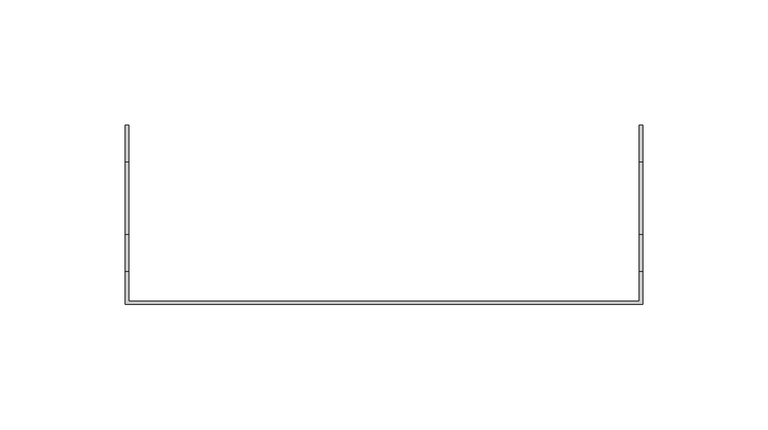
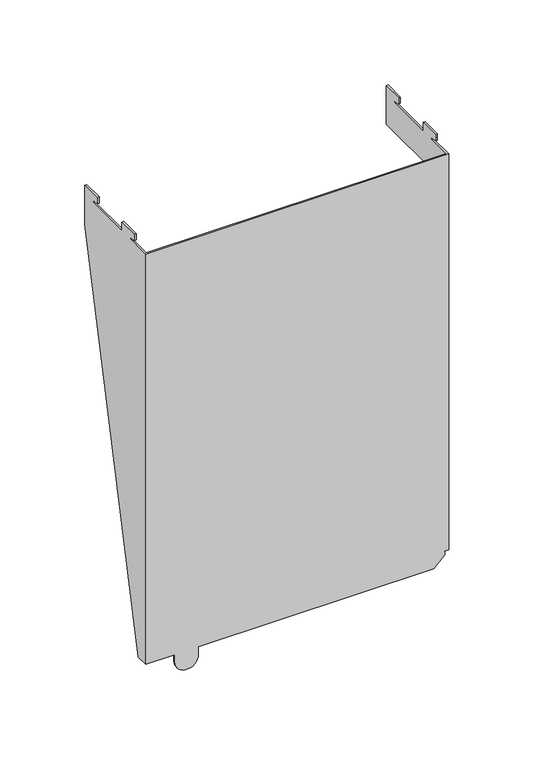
"""IFC4 building model written with IfcOpenShell, lengths in millimetres: proxy geometry, 046289_Konsole_fuer_Powerteil."""

from ifc_helpers import new_model, si_unit, frame, origin, place, context, project, spatial, circle_curve, source, transform, mapped, element, save
from ifc_brep_helpers import plane_surface, cylinder_surface, advanced_brep


def generic_models_26437f6a(model_context):
    return source(origin(), model_context, "Body", "AdvancedBrep", [
        advanced_brep(
        [(232.325, 1032.5, -308.0), (232.325, 1095.5, -35.0), (232.325, 1095.5, -7.15), (232.325, 1081.0, -7.15), (232.325, 1081.0, -11.65), (232.325, 1083.5, -12.15), (232.325, 1086.0, -12.15), (232.325, 1086.0, -13.5), (232.325, 1051.99, -13.5), (232.325, 1051.99, -7.15), (232.325, 1037.49, -7.15), (232.325, 1037.49, -11.65), (232.325, 1039.99, -12.15), (232.325, 1042.49, -12.15), (232.325, 1042.49, -13.5), (232.325, 1025.5, -13.5), (232.325, 1025.5, -308.0), (435.825, 1025.5, -13.5), (435.825, 1025.5, -298.0), (434.045, 1025.5, -298.0), (434.045, 1025.5, -298.5), (434.545, 1025.5, -298.5), (434.545, 1025.5, -300.53), (427.075, 1025.5, -308.0), (267.075, 1025.5, -308.0), (267.075, 1025.5, -313.5), (251.075, 1025.5, -313.5), (251.075, 1025.5, -308.0), (437.075, 1024.25, -13.5), (231.075, 1024.25, -13.5), (231.075, 1024.25, -308.0), (251.075, 1024.25, -308.0), (251.075, 1024.25, -313.5), (267.075, 1024.25, -313.5), (267.075, 1024.25, -308.0), (427.075, 1024.25, -308.0), (434.545, 1024.25, -300.53), (434.545, 1024.25, -298.5), (434.045, 1024.25, -298.5), (434.045, 1024.25, -298.0), (437.075, 1024.25, -298.0), (437.075, 1040.4163526, -35.0), (437.075, 1095.5, -35.0), (437.075, 1095.5, -7.15), (437.075, 1081.0, -7.15), (437.075, 1081.0, -11.65), (437.075, 1083.5, -12.15), (437.075, 1086.0, -12.15), (437.075, 1086.0, -13.5), (437.075, 1051.99, -13.5), (437.075, 1051.99, -7.15), (437.075, 1037.49, -7.15), (437.075, 1037.49, -11.65), (437.075, 1039.99, -12.15), (437.075, 1042.49, -12.15), (437.075, 1042.49, -13.5), (437.075, 1032.5, -298.0), (437.075, 1032.5, -56.75), (435.825, 1095.5, -35.0), (435.825, 1040.4163526, -35.0), (435.825, 1032.5, -56.75), (435.825, 1032.5, -298.0), (435.825, 1042.49, -13.5), (435.825, 1042.49, -12.15), (435.825, 1039.99, -12.15), (435.825, 1037.49, -11.65), (435.825, 1037.49, -7.15), (435.825, 1051.99, -7.15), (435.825, 1051.99, -13.5), (435.825, 1086.0, -13.5), (435.825, 1086.0, -12.15), (435.825, 1083.5, -12.15), (435.825, 1081.0, -11.65), (435.825, 1081.0, -7.15), (435.825, 1095.5, -7.15), (231.075, 1042.49, -13.5), (231.075, 1032.5, -308.0), (231.075, 1095.5, -35.0), (231.075, 1042.49, -12.15), (231.075, 1039.99, -12.15), (231.075, 1037.49, -11.65), (231.075, 1037.49, -7.15), (231.075, 1051.99, -7.15), (231.075, 1051.99, -13.5), (231.075, 1086.0, -13.5), (231.075, 1086.0, -12.15), (231.075, 1083.5, -12.15), (231.075, 1081.0, -11.65), (231.075, 1081.0, -7.15), (231.075, 1095.5, -7.15)],
        [
            (0, 1),
            (1, 2),
            (2, 3),
            (3, 4),
            (4, 5),
            (5, 6),
            (6, 7),
            (7, 8),
            (8, 9),
            (9, 10),
            (10, 11),
            (11, 12),
            (12, 13),
            (13, 14),
            (14, 15),
            (15, 16),
            (16, 0),
            (15, 17),
            (17, 18),
            (18, 19),
            (19, 20),
            (20, 21),
            (21, 22),
            (22, 23),
            (23, 24),
            (24, 25),
            (25, 26, circle_curve(frame((259.075, 1025.5, -313.5), z_axis=(0.0, 1.0, 0.0), x_axis=(-1.0, 0.0, 0.0)), 8.0)),
            (26, 27),
            (27, 16),
            (28, 29),
            (29, 30),
            (30, 31),
            (31, 32),
            (32, 33, circle_curve(frame((259.075, 1024.25, -313.5), z_axis=(0.0, -1.0, 0.0), x_axis=(-1.0, 0.0, 0.0)), 8.0)),
            (33, 34),
            (34, 35),
            (35, 36),
            (36, 37),
            (37, 38),
            (38, 39),
            (39, 40),
            (40, 28),
            (41, 42),
            (42, 43),
            (43, 44),
            (44, 45),
            (45, 46),
            (46, 47),
            (47, 48),
            (48, 49),
            (49, 50),
            (50, 51),
            (51, 52),
            (52, 53),
            (53, 54),
            (54, 55),
            (55, 28),
            (40, 56),
            (56, 57),
            (57, 41),
            (58, 59),
            (59, 60),
            (60, 61),
            (61, 18),
            (17, 62),
            (62, 63),
            (63, 64),
            (64, 65),
            (65, 66),
            (66, 67),
            (67, 68),
            (68, 69),
            (69, 70),
            (70, 71),
            (71, 72),
            (72, 73),
            (73, 74),
            (74, 58),
            (41, 59),
            (58, 42),
            (57, 60),
            (56, 61),
            (14, 75),
            (75, 29),
            (55, 62),
            (30, 76),
            (76, 0),
            (27, 31),
            (39, 19),
            (35, 23),
            (22, 36),
            (76, 77),
            (77, 1),
            (75, 78),
            (78, 79),
            (79, 80),
            (80, 81),
            (81, 82),
            (82, 83),
            (83, 84),
            (84, 85),
            (85, 86),
            (86, 87),
            (87, 88),
            (88, 89),
            (89, 77),
            (89, 2),
            (3, 88),
            (87, 4),
            (10, 81),
            (80, 11),
            (82, 9),
            (8, 83),
            (79, 12),
            (86, 5),
            (74, 43),
            (44, 73),
            (72, 45),
            (71, 46),
            (67, 50),
            (49, 68),
            (51, 66),
            (65, 52),
            (64, 53),
            (63, 54),
            (48, 69),
            (47, 70),
            (38, 20),
            (37, 21),
            (34, 24),
            (33, 25),
            (32, 26),
            (7, 84),
            (78, 13),
            (6, 85),
        ],
        [
            plane_surface(frame((232.325, 1082.463073, -252.759819), z_axis=(1.0, 0.0, 0.0), x_axis=(0.0, 0.0, -1.0))),
            plane_surface(frame((311.3887567, 1025.5, -192.7381268), z_axis=(0.0, 1.0, 0.0), x_axis=(-1.0, 0.0, 0.0))),
            plane_surface(frame((311.3887567, 1024.25, -192.7381268), z_axis=(0.0, -1.0, 0.0), x_axis=(-1.0, 0.0, 0.0))),
            plane_surface(frame((437.075, 1073.8599851, -31.0643711), z_axis=(1.0, 0.0, 0.0), x_axis=(0.0, 0.0, -1.0))),
            plane_surface(frame((435.825, 1073.8599851, -31.0643711), z_axis=(-1.0, 0.0, 0.0), x_axis=(0.0, 0.0, -1.0))),
            plane_surface(frame((437.075, 1059.6399553, -35.0), z_axis=(0.0, 0.0, -1.0), x_axis=(0.0, 1.0, 0.0))),
            plane_surface(frame((437.075, 1040.4163526, -35.0), z_axis=(0.0, 0.9396926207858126, -0.34202014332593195), x_axis=(0.0, 0.34202014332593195, 0.9396926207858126))),
            plane_surface(frame((437.075, 1032.5, -56.75), z_axis=(0.0, 1.0, 0.0), x_axis=(0.0, 0.0, 1.0))),
            plane_surface(frame((309.2120309, 1087.8842988, -13.5), z_axis=(0.0, 0.0, 1.0), x_axis=(-1.0, 0.0, 0.0))),
            plane_surface(frame((437.505, 1452.155, -308.0), z_axis=(0.0, 0.0, -1.0), x_axis=(0.0, -1.0, 0.0))),
            plane_surface(frame((434.045, 1102.6250024, -298.0), z_axis=(0.0, 0.0, -1.0), x_axis=(1.0, 0.0, 0.0))),
            plane_surface(frame((435.4987815, 1017.1249976, -299.5762185), z_axis=(0.7071067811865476, 0.0, -0.7071067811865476), x_axis=(-0.7071067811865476, 0.0, -0.7071067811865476))),
            plane_surface(frame((210.4749976, 1032.5, -308.0), z_axis=(0.0, 0.9743911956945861, -0.2248595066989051), x_axis=(0.0, 0.2248595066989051, 0.9743911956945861))),
            plane_surface(frame((231.075, 1082.463073, -252.759819), z_axis=(-1.0, 0.0, 0.0), x_axis=(0.0, 0.0, -1.0))),
            plane_surface(frame((232.325, 1095.5, -17.3404306), z_axis=(0.0, 1.0, 0.0), x_axis=(0.0, 0.0, -1.0))),
            plane_surface(frame((457.6750024, 1081.0, -11.65), z_axis=(0.0, -1.0, 0.0), x_axis=(0.0, 0.0, 1.0))),
            plane_surface(frame((457.6750024, 1037.49, -11.65), z_axis=(0.0, -1.0, 0.0), x_axis=(0.0, 0.0, 1.0))),
            plane_surface(frame((232.325, 1051.99, -17.1346883), z_axis=(0.0, 1.0, 0.0), x_axis=(0.0, 0.0, -1.0))),
            plane_surface(frame((457.6750024, 1039.99, -12.15), z_axis=(0.0, -0.19611613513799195, -0.9805806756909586), x_axis=(0.0, -0.9805806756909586, 0.19611613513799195))),
            plane_surface(frame((457.6750024, 1083.5, -12.15), z_axis=(0.0, -0.19611613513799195, -0.9805806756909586), x_axis=(0.0, -0.9805806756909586, 0.19611613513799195))),
            plane_surface(frame((437.075, 1095.5, -15.0), z_axis=(0.0, 1.0, 0.0), x_axis=(-1.0, 0.0, 0.0))),
            plane_surface(frame((437.075, 1051.99, -17.1346883), z_axis=(0.0, 1.0, 0.0), x_axis=(0.0, 0.0, -1.0))),
            plane_surface(frame((437.075, 1037.49, -12.15), z_axis=(0.0, 0.0, -1.0), x_axis=(0.0, -1.0, 0.0))),
            plane_surface(frame((437.075, 1047.49, -7.15), z_axis=(0.0, 0.0, 1.0), x_axis=(0.0, 1.0, 0.0))),
            plane_surface(frame((437.075, 1086.0, -12.15), z_axis=(0.0, -1.0, 0.0), x_axis=(0.0, 0.0, 1.0))),
            plane_surface(frame((437.075, 1081.0, -12.15), z_axis=(0.0, 0.0, -1.0), x_axis=(0.0, -1.0, 0.0))),
            plane_surface(frame((437.075, 1091.0, -7.15), z_axis=(0.0, 0.0, 1.0), x_axis=(0.0, 1.0, 0.0))),
            plane_surface(frame((434.045, 1102.6250024, -298.5), z_axis=(1.0, 0.0, 0.0), x_axis=(0.0, 0.0, 1.0))),
            plane_surface(frame((448.295139, 1102.6250024, -298.5), z_axis=(0.0, 0.0, 1.0), x_axis=(-1.0, 0.0, 0.0))),
            plane_surface(frame((434.545, 1017.1249976, -298.2897359), z_axis=(1.0, 0.0, 0.0), x_axis=(0.0, 0.0, -1.0))),
            plane_surface(frame((267.075, 1025.5, -307.2863268), z_axis=(1.0, 0.0, 0.0), x_axis=(0.0, 0.0, 1.0))),
            cylinder_surface(frame((259.075, 1025.5, -313.5), z_axis=(0.0, 1.0, 0.0), x_axis=(-1.0, 0.0, 0.0)), 8.0),
            plane_surface(frame((437.075, 1042.49, -12.15), z_axis=(0.0, -1.0, 0.0), x_axis=(0.0, 0.0, 1.0))),
            plane_surface(frame((251.075, 1025.5, -313.5), z_axis=(-1.0, 0.0, 0.0), x_axis=(0.0, 0.0, -1.0))),
            plane_surface(frame((232.325, 1049.25, -7.15), z_axis=(0.0, 0.0, 1.0), x_axis=(0.0, 1.0, 0.0))),
            plane_surface(frame((232.325, 1037.49, -12.15), z_axis=(0.0, 0.0, -1.0), x_axis=(0.0, -1.0, 0.0))),
            plane_surface(frame((232.325, 1086.0, -12.15), z_axis=(0.0, -1.0, 0.0), x_axis=(0.0, 0.0, 1.0))),
            plane_surface(frame((232.325, 1042.49, -12.15), z_axis=(0.0, -1.0, 0.0), x_axis=(0.0, 0.0, 1.0))),
            plane_surface(frame((232.325, 1081.0, -12.15), z_axis=(0.0, 0.0, -1.0), x_axis=(0.0, -1.0, 0.0))),
            plane_surface(frame((232.325, 1095.5, -7.15), z_axis=(0.0, 0.0, 1.0), x_axis=(0.0, 1.0, 0.0))),
        ],
        [
            (0, [[1, 2, 3, 4, 5, 6, 7, 8, 9, 10, 11, 12, 13, 14, 15, 16, 17]]),
            (1, [[18, 19, 20, 21, 22, 23, 24, 25, 26, 27, 28, 29, -16]]),
            (2, [[30, 31, 32, 33, 34, 35, 36, 37, 38, 39, 40, 41, 42]]),
            (3, [[43, 44, 45, 46, 47, 48, 49, 50, 51, 52, 53, 54, 55, 56, 57, -42, 58, 59, 60]]),
            (4, [[61, 62, 63, 64, -19, 65, 66, 67, 68, 69, 70, 71, 72, 73, 74, 75, 76, 77, 78]]),
            (5, [[-43, 79, -61, 80]]),
            (6, [[-60, 81, -62, -79]]),
            (7, [[-63, -81, -59, 82]]),
            (8, [[-15, 83, 84, -30, -57, 85, -65, -18]]),
            (9, [[86, 87, -17, -29, 88, -32]]),
            (10, [[-64, -82, -58, -41, 89, -20]]),
            (11, [[-37, 90, -24, 91]]),
            (12, [[-1, -87, 92, 93]]),
            (13, [[-92, -86, -31, -84, 94, 95, 96, 97, 98, 99, 100, 101, 102, 103, 104, 105, 106]]),
            (14, [[-106, 107, -2, -93]]),
            (15, [[-4, 108, -104, 109]]),
            (16, [[-11, 110, -97, 111]]),
            (17, [[-99, 112, -9, 113]]),
            (18, [[-12, -111, -96, 114]]),
            (19, [[-5, -109, -103, 115]]),
            (20, [[-44, -80, -78, 116]]),
            (15, [[-46, 117, -76, 118]]),
            (19, [[-47, -118, -75, 119]]),
            (21, [[-71, 120, -51, 121]]),
            (16, [[-53, 122, -69, 123]]),
            (18, [[-54, -123, -68, 124]]),
            (22, [[-55, -124, -67, 125]]),
            (23, [[-70, -122, -52, -120]]),
            (8, [[-121, -50, 126, -72]]),
            (24, [[-126, -49, 127, -73]]),
            (25, [[-48, -119, -74, -127]]),
            (26, [[-77, -117, -45, -116]]),
            (27, [[-40, 128, -21, -89]]),
            (28, [[129, -22, -128, -39]]),
            (29, [[-38, -91, -23, -129]]),
            (9, [[-36, 130, -25, -90]]),
            (30, [[-130, -35, 131, -26]]),
            (31, [[-27, -131, -34, 132]]),
            (32, [[-85, -56, -125, -66]]),
            (33, [[-28, -132, -33, -88]]),
            (34, [[-10, -112, -98, -110]]),
            (8, [[-113, -8, 133, -100]]),
            (35, [[-13, -114, -95, 134]]),
            (36, [[-133, -7, 135, -101]]),
            (37, [[-83, -14, -134, -94]]),
            (38, [[-6, -115, -102, -135]]),
            (39, [[-105, -108, -3, -107]]),
        ],
    ),
    ])


if __name__ == "__main__":
    model = new_model("IFC4")
    model_context = context("Model", 3, world=origin())
    ifc_project = project(units=[si_unit("LENGTHUNIT", "METRE", prefix="MILLI")], contexts=[model_context])
    site = spatial("IfcSite", under=ifc_project)
    building = spatial("IfcBuilding", under=site)
    placement = place(None, origin())
    generic_models_shape = generic_models_26437f6a(model_context)
    element("IfcBuildingElementProxy", 1, Name="046289_Konsole_fuer_Powerteil", ObjectType="046289_Konsole_fuer_Powerteil", at=placement, inside=building, context=model_context, shape_type="MappedRepresentation", body=[
        mapped(generic_models_shape, transform((0.0, 0.0, 0.0), x_axis=(1.0, 0.0, 0.0), y_axis=(0.0, 1.0, 0.0), z_axis=(0.0, 0.0, 1.0))),
    ])
    save(model, "model.ifc")
